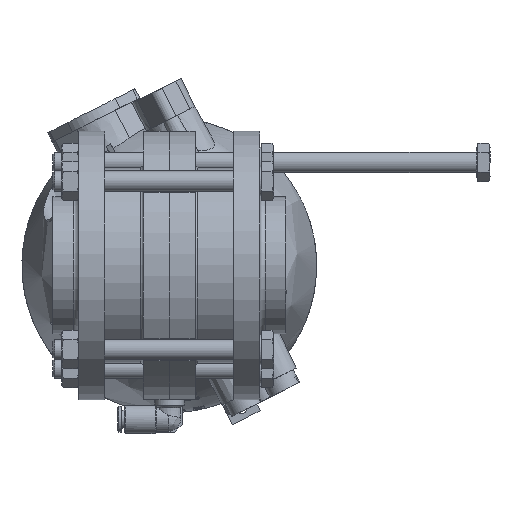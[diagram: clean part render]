
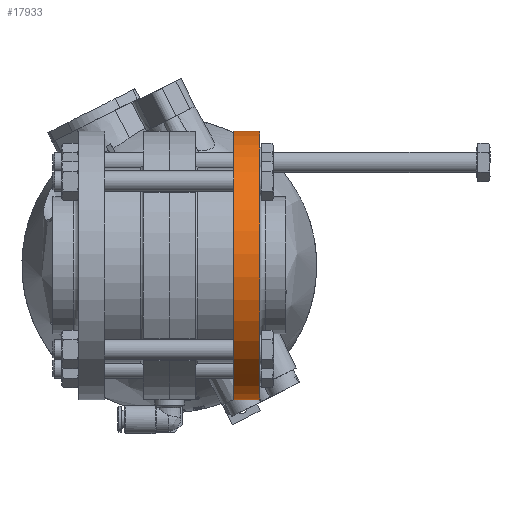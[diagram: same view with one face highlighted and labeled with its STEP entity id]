
A CAD part, left-side view. The second image highlights one B-rep face of the part: STEP entity #17933.
In plain terms, the highlighted cylindrical face has radius 52 mm (diameter 104 mm), a partial arc.
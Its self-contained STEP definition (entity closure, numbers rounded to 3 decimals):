
#2753=FACE_OUTER_BOUND('',#3786,.T.);
#3786=EDGE_LOOP('',(#12459,#12460,#12461,#12462));
#4902=LINE('',#27361,#5965);
#4904=LINE('',#27365,#5967);
#5965=VECTOR('',#21654,10.);
#5967=VECTOR('',#21656,10.);
#7031=CIRCLE('',#19247,52.);
#7036=CIRCLE('',#19254,52.);
#7859=VERTEX_POINT('',#27359);
#7860=VERTEX_POINT('',#27360);
#7861=VERTEX_POINT('',#27362);
#7862=VERTEX_POINT('',#27364);
#9671=EDGE_CURVE('',#7859,#7860,#4902,.T.);
#9673=EDGE_CURVE('',#7862,#7861,#4904,.T.);
#9675=EDGE_CURVE('',#7862,#7860,#7031,.T.);
#9680=EDGE_CURVE('',#7861,#7859,#7036,.T.);
#12459=ORIENTED_EDGE('',*,*,#9671,.T.);
#12460=ORIENTED_EDGE('',*,*,#9675,.F.);
#12461=ORIENTED_EDGE('',*,*,#9673,.T.);
#12462=ORIENTED_EDGE('',*,*,#9680,.T.);
#17794=CYLINDRICAL_SURFACE('',#19255,52.);
#17933=ADVANCED_FACE('',(#2753),#17794,.T.);
#19247=AXIS2_PLACEMENT_3D('',#27368,#21660,#21661);
#19254=AXIS2_PLACEMENT_3D('',#27378,#21674,#21675);
#19255=AXIS2_PLACEMENT_3D('',#27379,#21676,#21677);
#21654=DIRECTION('',(0.,1.,0.));
#21656=DIRECTION('',(0.,-1.,0.));
#21660=DIRECTION('center_axis',(0.,1.,0.));
#21661=DIRECTION('ref_axis',(1.,0.,0.));
#21674=DIRECTION('center_axis',(0.,1.,0.));
#21675=DIRECTION('ref_axis',(1.,0.,0.));
#21676=DIRECTION('center_axis',(0.,1.,0.));
#21677=DIRECTION('ref_axis',(0.,0.,
-1.));
#27359=CARTESIAN_POINT('',(-24.249,-10.,46.));
#27360=CARTESIAN_POINT('',(-24.249,0.,46.));
#27361=CARTESIAN_POINT('',(-24.249,-5.,46.));
#27362=CARTESIAN_POINT('',(24.249,-10.,46.));
#27364=CARTESIAN_POINT('',(24.249,0.,46.));
#27365=CARTESIAN_POINT('',(24.249,-5.,46.));
#27368=CARTESIAN_POINT('Origin',(0.,0.,0.));
#27378=CARTESIAN_POINT('Origin',(0.,-10.,0.));
#27379=CARTESIAN_POINT('Origin',(0.,-5.,0.));
